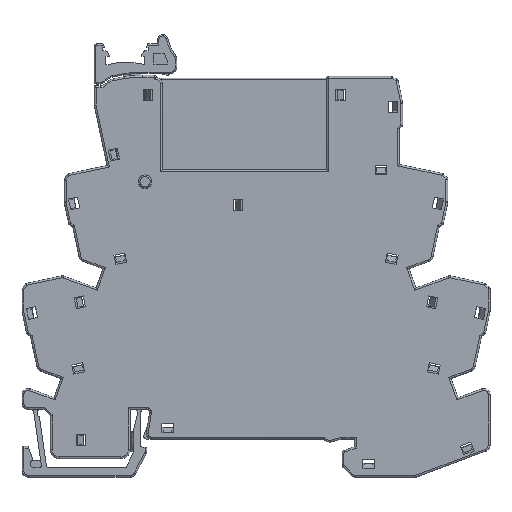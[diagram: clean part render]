
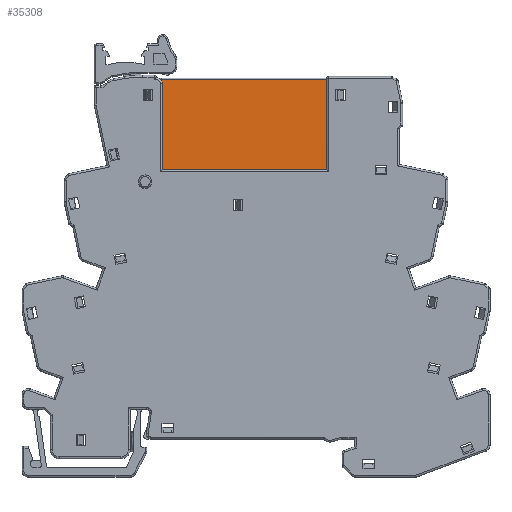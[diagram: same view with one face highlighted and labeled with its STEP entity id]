
A CAD part, top view. The second image highlights one B-rep face of the part: STEP entity #35308.
In plain terms, the highlighted planar face has unit normal (0, 0, 1).
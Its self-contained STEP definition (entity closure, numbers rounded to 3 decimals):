
#246 = VECTOR ( 'NONE', #9248, 1000. ) ;
#606 = ORIENTED_EDGE ( 'NONE', *, *, #23679, .T. ) ;
#792 = DIRECTION ( 'NONE',  ( 0., -1., 0. ) ) ;
#1020 = VERTEX_POINT ( 'NONE', #2990 ) ;
#1316 = CARTESIAN_POINT ( 'NONE',  ( 13.504, 29.268, 5.613 ) ) ;
#1422 = LINE ( 'NONE', #26214, #9914 ) ;
#1481 = VERTEX_POINT ( 'NONE', #11904 ) ;
#2717 = CARTESIAN_POINT ( 'NONE',  ( 13.004, 29.268, 5.613 ) ) ;
#2955 = LINE ( 'NONE', #34066, #11467 ) ;
#2990 = CARTESIAN_POINT ( 'NONE',  ( -13.396, 29.118, 5.613 ) ) ;
#3098 = VECTOR ( 'NONE', #37994, 1000. ) ;
#3824 = EDGE_CURVE ( 'NONE', #42842, #1481, #38365, .T. ) ;
#3884 = VERTEX_POINT ( 'NONE', #2717 ) ;
#4468 = VERTEX_POINT ( 'NONE', #29342 ) ;
#7290 = CARTESIAN_POINT ( 'NONE',  ( -13.746, 43.518, 5.613 ) ) ;
#8039 = ORIENTED_EDGE ( 'NONE', *, *, #32062, .T. ) ;
#8317 = EDGE_CURVE ( 'NONE', #25808, #4468, #46334, .T. ) ;
#8841 = ORIENTED_EDGE ( 'NONE', *, *, #30155, .T. ) ;
#9248 = DIRECTION ( 'NONE',  ( 0., 1., 0. ) ) ;
#9674 = DIRECTION ( 'NONE',  ( 0., 0., 1. ) ) ;
#9914 = VECTOR ( 'NONE', #792, 1000. ) ;
#10477 = VERTEX_POINT ( 'NONE', #1316 ) ;
#11381 = VECTOR ( 'NONE', #25482, 1000. ) ;
#11467 = VECTOR ( 'NONE', #19609, 1000. ) ;
#11904 = CARTESIAN_POINT ( 'NONE',  ( -13.746, 43.518, 5.613 ) ) ;
#12103 = ORIENTED_EDGE ( 'NONE', *, *, #31795, .T. ) ;
#12450 = CARTESIAN_POINT ( 'NONE',  ( 13.854, 29.268, 5.613 ) ) ;
#12506 = LINE ( 'NONE', #7290, #11381 ) ;
#12534 = CARTESIAN_POINT ( 'NONE',  ( -12.896, 29.268, 5.613 ) ) ;
#13910 = VECTOR ( 'NONE', #25374, 1000. ) ;
#13974 = EDGE_CURVE ( 'NONE', #17455, #19944, #33289, .T. ) ;
#13986 = ORIENTED_EDGE ( 'NONE', *, *, #21621, .T. ) ;
#14514 = DIRECTION ( 'NONE',  ( 0., 0., 1. ) ) ;
#14773 = DIRECTION ( 'NONE',  ( 0., 1., 0. ) ) ;
#15884 = ORIENTED_EDGE ( 'NONE', *, *, #38597, .T. ) ;
#16154 = ORIENTED_EDGE ( 'NONE', *, *, #42857, .T. ) ;
#16396 = EDGE_CURVE ( 'NONE', #10477, #40868, #41000, .T. ) ;
#17031 = CARTESIAN_POINT ( 'NONE',  ( 13.504, 43.518, 5.613 ) ) ;
#17349 = FACE_OUTER_BOUND ( 'NONE', #28983, .T. ) ;
#17407 = CARTESIAN_POINT ( 'NONE',  ( -13.396, 29.268, 5.613 ) ) ;
#17455 = VERTEX_POINT ( 'NONE', #30954 ) ;
#18393 = EDGE_CURVE ( 'NONE', #1481, #17455, #12506, .T. ) ;
#19609 = DIRECTION ( 'NONE',  ( 0., 1., 0. ) ) ;
#19944 = VERTEX_POINT ( 'NONE', #45626 ) ;
#20431 = LINE ( 'NONE', #17407, #30103 ) ;
#20563 = VECTOR ( 'NONE', #31851, 1000. ) ;
#20717 = DIRECTION ( 'NONE',  ( 1., 0., 0. ) ) ;
#20896 = CARTESIAN_POINT ( 'NONE',  ( 13.504, 43.868, 5.613 ) ) ;
#21621 = EDGE_CURVE ( 'NONE', #4468, #3884, #30968, .T. ) ;
#21711 = LINE ( 'NONE', #46330, #20563 ) ;
#21814 = ORIENTED_EDGE ( 'NONE', *, *, #13974, .T. ) ;
#22475 = VECTOR ( 'NONE', #38880, 1000. ) ;
#23679 = EDGE_CURVE ( 'NONE', #3884, #28725, #1422, .T. ) ;
#24062 = CARTESIAN_POINT ( 'NONE',  ( -12.896, 29.118, 5.613 ) ) ;
#24271 = EDGE_CURVE ( 'NONE', #28725, #43581, #45156, .T. ) ;
#24552 = LINE ( 'NONE', #32958, #43893 ) ;
#25374 = DIRECTION ( 'NONE',  ( 1., 0., 0. ) ) ;
#25482 = DIRECTION ( 'NONE',  ( 0., -1., 0. ) ) ;
#25636 = CARTESIAN_POINT ( 'NONE',  ( -13.396, 43.868, 5.613 ) ) ;
#25808 = VERTEX_POINT ( 'NONE', #31623 ) ;
#25815 = ORIENTED_EDGE ( 'NONE', *, *, #16396, .T. ) ;
#26214 = CARTESIAN_POINT ( 'NONE',  ( 13.004, 29.268, 5.613 ) ) ;
#26438 = AXIS2_PLACEMENT_3D ( 'NONE', #47172, #14514, #39988 ) ;
#28725 = VERTEX_POINT ( 'NONE', #38045 ) ;
#28983 = EDGE_LOOP ( 'NONE', ( #25815, #16154, #45739, #8039, #29804, #31346, #21814, #15884, #8841, #40744, #13986, #606, #34908, #12103 ) ) ;
#29342 = CARTESIAN_POINT ( 'NONE',  ( -12.896, 29.268, 5.613 ) ) ;
#29804 = ORIENTED_EDGE ( 'NONE', *, *, #3824, .T. ) ;
#30103 = VECTOR ( 'NONE', #42869, 1000. ) ;
#30155 = EDGE_CURVE ( 'NONE', #1020, #25808, #37255, .T. ) ;
#30883 = CARTESIAN_POINT ( 'NONE',  ( 13.854, 43.518, 5.613 ) ) ;
#30954 = CARTESIAN_POINT ( 'NONE',  ( -13.746, 29.268, 5.613 ) ) ;
#30968 = LINE ( 'NONE', #12534, #3098 ) ;
#31329 = VECTOR ( 'NONE', #38656, 1000. ) ;
#31346 = ORIENTED_EDGE ( 'NONE', *, *, #18393, .T. ) ;
#31505 = CARTESIAN_POINT ( 'NONE',  ( -13.396, 43.518, 5.613 ) ) ;
#31623 = CARTESIAN_POINT ( 'NONE',  ( -12.896, 29.118, 5.613 ) ) ;
#31754 = CARTESIAN_POINT ( 'NONE',  ( -13.396, 29.118, 5.613 ) ) ;
#31795 = EDGE_CURVE ( 'NONE', #43581, #10477, #2955, .T. ) ;
#31851 = DIRECTION ( 'NONE',  ( -1., 0., 0. ) ) ;
#32062 = EDGE_CURVE ( 'NONE', #44714, #42842, #21711, .T. ) ;
#32958 = CARTESIAN_POINT ( 'NONE',  ( 13.854, 43.518, 5.613 ) ) ;
#33289 = LINE ( 'NONE', #36338, #13910 ) ;
#33994 = CARTESIAN_POINT ( 'NONE',  ( 13.504, 29.118, 5.613 ) ) ;
#34030 = VERTEX_POINT ( 'NONE', #30883 ) ;
#34066 = CARTESIAN_POINT ( 'NONE',  ( 13.504, 29.118, 5.613 ) ) ;
#34908 = ORIENTED_EDGE ( 'NONE', *, *, #24271, .T. ) ;
#35137 = DIRECTION ( 'NONE',  ( 1., 0., 0. ) ) ;
#35308 = ADVANCED_FACE ( 'NONE', ( #17349 ), #36339, .T. ) ;
#36338 = CARTESIAN_POINT ( 'NONE',  ( -13.896, 29.268, 5.613 ) ) ;
#36339 = PLANE ( 'NONE',  #26438 ) ;
#36431 = CIRCLE ( 'NONE', #46047, 0.35 ) ;
#37229 = EDGE_CURVE ( 'NONE', #34030, #44714, #36431, .T. ) ;
#37255 = LINE ( 'NONE', #31754, #22475 ) ;
#37994 = DIRECTION ( 'NONE',  ( 1., 0., 0. ) ) ;
#38045 = CARTESIAN_POINT ( 'NONE',  ( 13.004, 29.118, 5.613 ) ) ;
#38365 = CIRCLE ( 'NONE', #38742, 0.35 ) ;
#38597 = EDGE_CURVE ( 'NONE', #19944, #1020, #20431, .T. ) ;
#38656 = DIRECTION ( 'NONE',  ( 1., 0., 0. ) ) ;
#38742 = AXIS2_PLACEMENT_3D ( 'NONE', #31505, #9674, #35137 ) ;
#38880 = DIRECTION ( 'NONE',  ( 1., 0., 0. ) ) ;
#39988 = DIRECTION ( 'NONE',  ( 1., 0., 0. ) ) ;
#40590 = VECTOR ( 'NONE', #44922, 1000. ) ;
#40744 = ORIENTED_EDGE ( 'NONE', *, *, #8317, .T. ) ;
#40868 = VERTEX_POINT ( 'NONE', #12450 ) ;
#41000 = LINE ( 'NONE', #42321, #31329 ) ;
#41261 = CARTESIAN_POINT ( 'NONE',  ( 13.004, 29.118, 5.613 ) ) ;
#42321 = CARTESIAN_POINT ( 'NONE',  ( 13.504, 29.268, 5.613 ) ) ;
#42497 = DIRECTION ( 'NONE',  ( 0., 0., 1. ) ) ;
#42842 = VERTEX_POINT ( 'NONE', #25636 ) ;
#42857 = EDGE_CURVE ( 'NONE', #40868, #34030, #24552, .T. ) ;
#42869 = DIRECTION ( 'NONE',  ( 0., -1., 0. ) ) ;
#43581 = VERTEX_POINT ( 'NONE', #33994 ) ;
#43893 = VECTOR ( 'NONE', #14773, 1000. ) ;
#44714 = VERTEX_POINT ( 'NONE', #20896 ) ;
#44922 = DIRECTION ( 'NONE',  ( 1., 0., 0. ) ) ;
#45156 = LINE ( 'NONE', #41261, #40590 ) ;
#45626 = CARTESIAN_POINT ( 'NONE',  ( -13.396, 29.268, 5.613 ) ) ;
#45739 = ORIENTED_EDGE ( 'NONE', *, *, #37229, .T. ) ;
#46047 = AXIS2_PLACEMENT_3D ( 'NONE', #17031, #42497, #20717 ) ;
#46330 = CARTESIAN_POINT ( 'NONE',  ( -13.396, 43.868, 5.613 ) ) ;
#46334 = LINE ( 'NONE', #24062, #246 ) ;
#47172 = CARTESIAN_POINT ( 'NONE',  ( 13.504, 43.518, 5.613 ) ) ;
